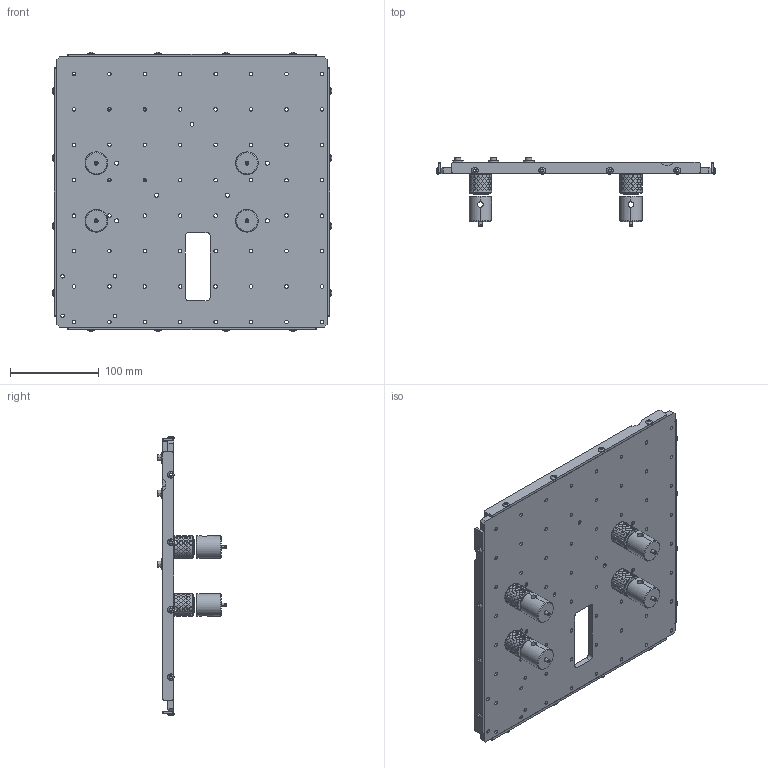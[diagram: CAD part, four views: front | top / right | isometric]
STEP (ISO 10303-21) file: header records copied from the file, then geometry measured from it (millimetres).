
FILE_DESCRIPTION (( 'STEP AP214' ), '1' );
FILE_NAME ('D1DE6514-63D5-4E6B-9FA4-4FC90AA26E27.STEP', '2022-10-17T02:35:47', ( '' ), ( '' ), 'SwSTEP 2.0', 'SolidWorks 2022', '' );
FILE_SCHEMA (( 'AUTOMOTIVE_DESIGN' ));
Length unit declared in the file: inch
Products named in the file (1): D1DE6514-63D5-4E6B-9FA4-4FC90AA26E27
Bounding box: 315.55 x 77.73 x 315.55 mm (x, y, z)
Surface area: 264319 mm2 (no closed solid volume)
Topology: 0 solids, 266 shells, 2189 faces, 6929 edges, 4903 vertices
Faces by surface type: cylinder 913, bspline 807, plane 332, cone 87, torus 50
Entity records: 106311 total; most frequent: CARTESIAN_POINT 61026, ORIENTED_EDGE 10274, EDGE_CURVE 6925, DIRECTION 6348, VERTEX_POINT 4903, AXIS2_PLACEMENT_3D 2626, EDGE_LOOP 2471, ADVANCED_FACE 2189
